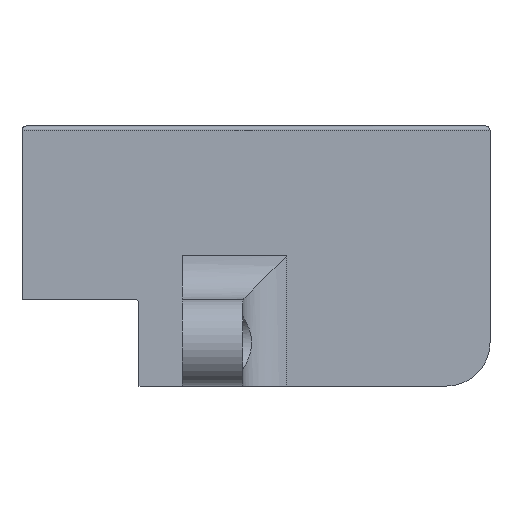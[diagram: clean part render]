
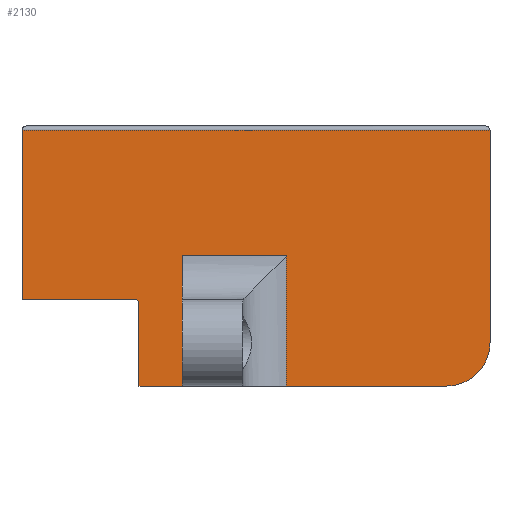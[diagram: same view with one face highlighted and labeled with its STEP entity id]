
A CAD part, front view. The second image highlights one B-rep face of the part: STEP entity #2130.
In plain terms, the highlighted planar face has unit normal (0, -1, 0).
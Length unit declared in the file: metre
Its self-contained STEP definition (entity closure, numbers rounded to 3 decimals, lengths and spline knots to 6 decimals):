
#12=PLANE('',#2278);
#110=LINE('',#3204,#329);
#115=LINE('',#3238,#334);
#116=LINE('',#3240,#335);
#117=LINE('',#3244,#336);
#118=LINE('',#3246,#337);
#119=LINE('',#3248,#338);
#120=LINE('',#3250,#339);
#121=LINE('',#3254,#340);
#122=LINE('',#3256,#341);
#123=LINE('',#3258,#342);
#329=VECTOR('',#2510,1.);
#334=VECTOR('',#2531,1.);
#335=VECTOR('',#2532,1.);
#336=VECTOR('',#2535,1.);
#337=VECTOR('',#2536,1.);
#338=VECTOR('',#2537,1.);
#339=VECTOR('',#2538,1.);
#340=VECTOR('',#2541,1.);
#341=VECTOR('',#2542,1.);
#342=VECTOR('',#2543,1.);
#565=ORIENTED_EDGE('',*,*,#1215,.T.);
#566=ORIENTED_EDGE('',*,*,#1204,.T.);
#567=ORIENTED_EDGE('',*,*,#1216,.F.);
#568=ORIENTED_EDGE('',*,*,#1217,.T.);
#569=ORIENTED_EDGE('',*,*,#1218,.F.);
#570=ORIENTED_EDGE('',*,*,#1219,.T.);
#571=ORIENTED_EDGE('',*,*,#1220,.F.);
#572=ORIENTED_EDGE('',*,*,#1221,.F.);
#573=ORIENTED_EDGE('',*,*,#1222,.T.);
#574=ORIENTED_EDGE('',*,*,#1223,.F.);
#575=ORIENTED_EDGE('',*,*,#1224,.F.);
#576=ORIENTED_EDGE('',*,*,#1225,.T.);
#1204=EDGE_CURVE('',#1530,#1529,#110,.F.);
#1215=EDGE_CURVE('',#1540,#1530,#115,.F.);
#1216=EDGE_CURVE('',#1541,#1529,#116,.T.);
#1217=EDGE_CURVE('',#1541,#1542,#1732,.T.);
#1218=EDGE_CURVE('',#1543,#1542,#117,.T.);
#1219=EDGE_CURVE('',#1543,#1544,#118,.F.);
#1220=EDGE_CURVE('',#1545,#1544,#119,.T.);
#1221=EDGE_CURVE('',#1546,#1545,#120,.T.);
#1222=EDGE_CURVE('',#1546,#1547,#1733,.F.);
#1223=EDGE_CURVE('',#1548,#1547,#121,.T.);
#1224=EDGE_CURVE('',#1549,#1548,#122,.T.);
#1225=EDGE_CURVE('',#1549,#1540,#123,.T.);
#1529=VERTEX_POINT('',#3203);
#1530=VERTEX_POINT('',#3205);
#1540=VERTEX_POINT('',#3239);
#1541=VERTEX_POINT('',#3241);
#1542=VERTEX_POINT('',#3243);
#1543=VERTEX_POINT('',#3245);
#1544=VERTEX_POINT('',#3247);
#1545=VERTEX_POINT('',#3249);
#1546=VERTEX_POINT('',#3251);
#1547=VERTEX_POINT('',#3253);
#1548=VERTEX_POINT('',#3255);
#1549=VERTEX_POINT('',#3257);
#1732=CIRCLE('',#2279,0.01);
#1733=CIRCLE('',#2280,0.001);
#1790=EDGE_LOOP('',(#565,#566,#567,#568,#569,#570,#571,#572,#573,#574,#575,
#576));
#1923=FACE_BOUND('',#1790,.T.);
#2130=ADVANCED_FACE('',(#1923),#12,.T.);
#2278=AXIS2_PLACEMENT_3D('',#3237,#2529,#2530);
#2279=AXIS2_PLACEMENT_3D('',#3242,#2533,#2534);
#2280=AXIS2_PLACEMENT_3D('',#3252,#2539,#2540);
#2510=DIRECTION('',(0.,0.,1.));
#2529=DIRECTION('',(0.,-1.,0.));
#2530=DIRECTION('',(1.,0.,0.));
#2531=DIRECTION('',(-1.,0.,0.));
#2532=DIRECTION('',(-1.,0.,0.));
#2533=DIRECTION('',(0.,-1.,0.));
#2534=DIRECTION('',(0.,0.,-1.));
#2535=DIRECTION('',(0.,0.,-1.));
#2536=DIRECTION('',(1.,0.,0.));
#2537=DIRECTION('',(0.,0.,1.));
#2538=DIRECTION('',(-1.,0.,0.));
#2539=DIRECTION('',(0.,-1.,0.));
#2540=DIRECTION('',(0.,0.,-1.));
#2541=DIRECTION('',(0.,0.,1.));
#2542=DIRECTION('',(-1.,0.,0.));
#2543=DIRECTION('',(0.,0.,1.));
#3203=CARTESIAN_POINT('',(0.034,-0.253,-0.05));
#3204=CARTESIAN_POINT('',(0.034,-0.253,-0.02));
#3205=CARTESIAN_POINT('',(0.034,-0.253,-0.02));
#3237=CARTESIAN_POINT('',(0.027,-0.253,-0.02));
#3238=CARTESIAN_POINT('',(0.027,-0.253,-0.02));
#3239=CARTESIAN_POINT('',(0.01,-0.253,-0.02));
#3240=CARTESIAN_POINT('',(0.0405,-0.253,-0.05));
#3241=CARTESIAN_POINT('',(0.071,-0.253,-0.05));
#3242=CARTESIAN_POINT('',(0.071,-0.253,-0.04));
#3243=CARTESIAN_POINT('',(0.081,-0.253,-0.04));
#3244=CARTESIAN_POINT('',(0.081,-0.253,-0.0335));
#3245=CARTESIAN_POINT('',(0.081,-0.253,0.009));
#3246=CARTESIAN_POINT('',(0.027,-0.253,0.009));
#3247=CARTESIAN_POINT('',(-0.027,-0.253,0.009));
#3248=CARTESIAN_POINT('',(-0.027,-0.253,-0.015));
#3249=CARTESIAN_POINT('',(-0.027,-0.253,-0.03));
#3250=CARTESIAN_POINT('',(-0.0235,-0.253,-0.03));
#3251=CARTESIAN_POINT('',(-0.001,-0.253,-0.03));
#3252=CARTESIAN_POINT('',(-0.001,-0.253,-0.031));
#3253=CARTESIAN_POINT('',(0.,-0.253,-0.031));
#3254=CARTESIAN_POINT('',(0.,-0.253,-0.04));
#3255=CARTESIAN_POINT('',(0.,-0.253,-0.05));
#3256=CARTESIAN_POINT('',(0.0405,-0.253,-0.05));
#3257=CARTESIAN_POINT('',(0.01,-0.253,-0.05));
#3258=CARTESIAN_POINT('',(0.01,-0.253,-0.04));
